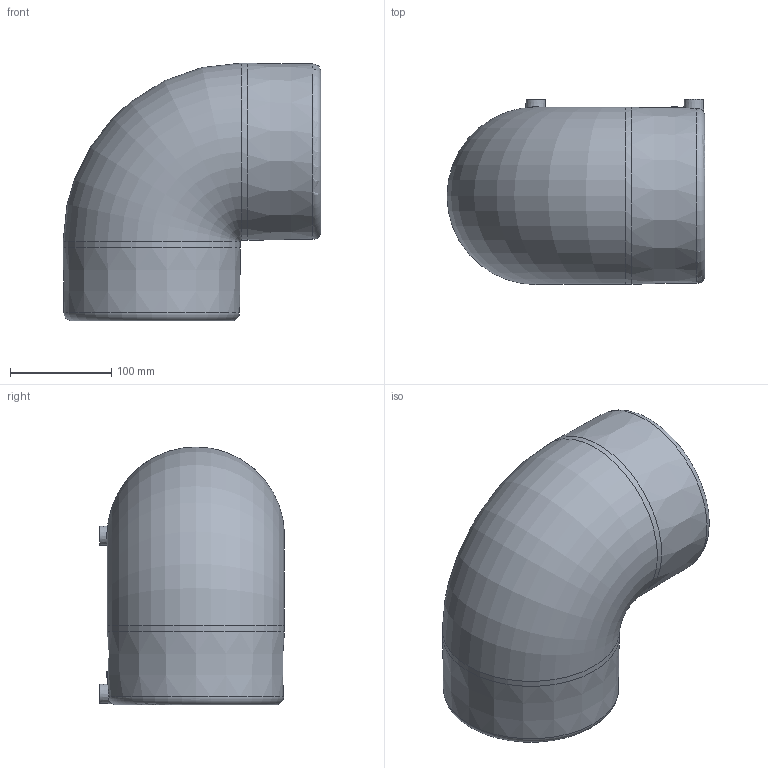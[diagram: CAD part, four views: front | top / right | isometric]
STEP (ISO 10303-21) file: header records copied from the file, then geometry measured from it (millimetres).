
FILE_DESCRIPTION(/* description */ ('Unknown'),/* implementation_level */ '2;1');
FILE_NAME(/* name */ 'GE9P140C',/* time_stamp */ '2021-02-11T16:25:48+01:00',/* author */ ('Unknown'),/* organization */ ('Unknown'),/* preprocessor_version */ 'ST-DEVELOPER v16.7',/* originating_system */ 'Solid Edge',/* authorisation */ 'Unknown');
FILE_SCHEMA (('AUTOMOTIVE_DESIGN {1 0 10303 214 3 1 1}'));
Length unit declared in the file: millimetre
Products named in the file (1): GE9P140C
Bounding box: 254.5 x 182.5 x 254.5 mm (x, y, z)
Volume: 2714219.9 mm3; surface area: 308187.5 mm2
Topology: 1 solids, 1 shells, 32 faces, 69 edges, 47 vertices
Faces by surface type: plane 12, cylinder 12, cone 4, torus 4
Full cylindrical faces by diameter (mm): 4 x2, 6 x2, 10 x2, 140 x2, 175 x2
Entity records: 835 total; most frequent: CARTESIAN_POINT 249, DIRECTION 120, ORIENTED_EDGE 78, AXIS2_PLACEMENT_3D 60, EDGE_LOOP 59, FACE_BOUND 59, EDGE_CURVE 39, VERTEX_POINT 34
